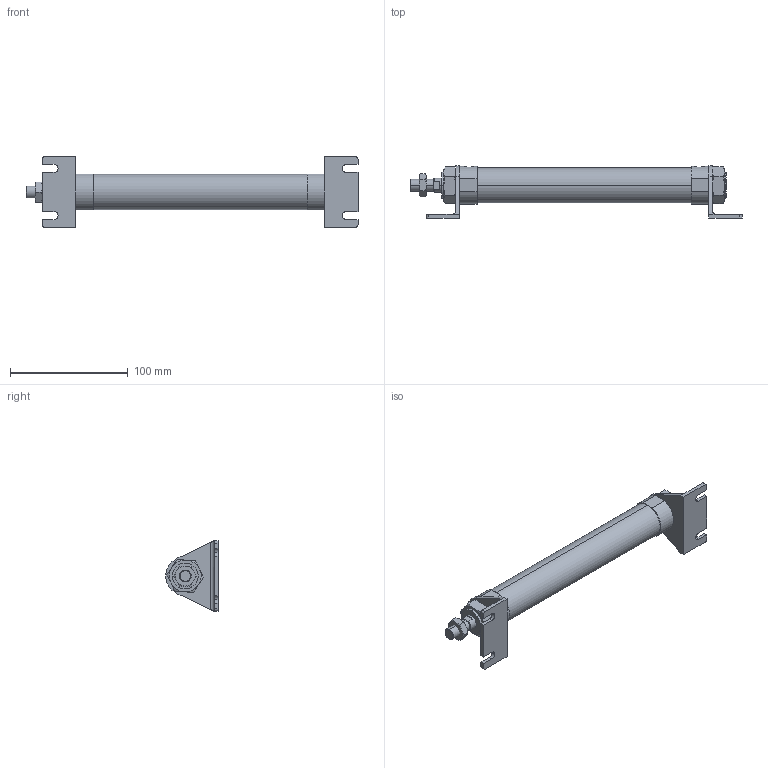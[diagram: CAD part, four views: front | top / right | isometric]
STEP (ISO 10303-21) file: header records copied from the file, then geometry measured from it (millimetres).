
FILE_DESCRIPTION (( 'STEP AP203' ), '1' );
FILE_NAME ('J#2-25-150-L.STEP', '2016-03-10T00:55:52', ( '' ), ( '' ), 'SwSTEP 2.0', 'SolidWorks 2014', '' );
FILE_SCHEMA (( 'CONFIG_CONTROL_DESIGN' ));
Length unit declared in the file: millimetre
Products named in the file (5): J#2-25-L; J#2-25-150; J#2-25-150-L
Assembly tree (6 placements, depth 2):
  J#2-25-150-L
    J#2-25-150
    (unnamed)
    (unnamed)  x2
    J#2-25-L  x2
Bounding box: 282.2 x 44.5 x 60 mm (x, y, z)
Volume: 188533.2 mm3; surface area: 44217.3 mm2
Topology: 6 solids, 6 shells, 171 faces, 402 edges, 246 vertices
Faces by surface type: plane 75, cylinder 50, torus 36, cone 10
Entity records: 4351 total; most frequent: CARTESIAN_POINT 1030, DIRECTION 588, ORIENTED_EDGE 560, EDGE_CURVE 280, AXIS2_PLACEMENT_3D 234, VERTEX_POINT 172, EDGE_LOOP 136, FACE_OUTER_BOUND 123
